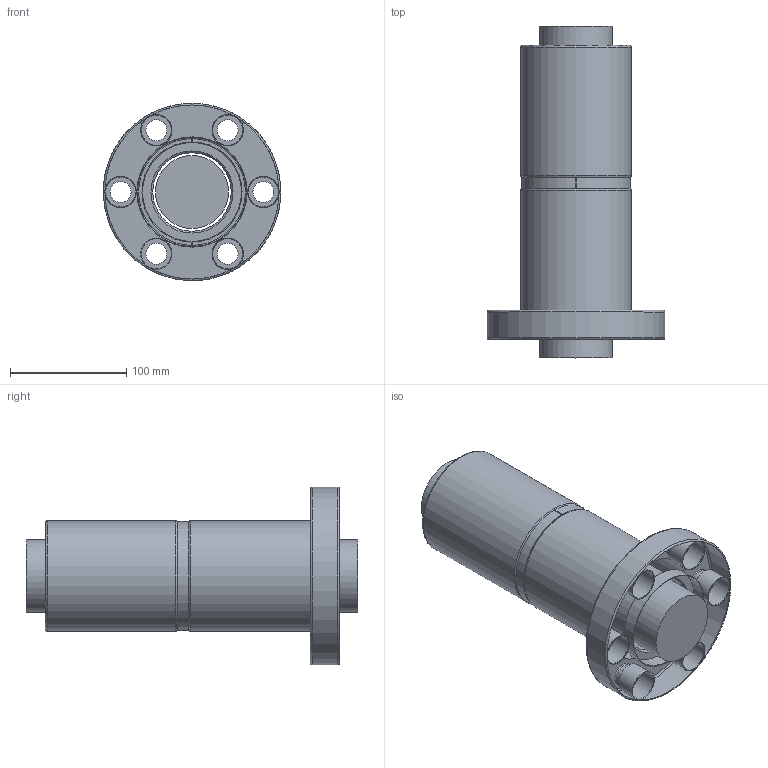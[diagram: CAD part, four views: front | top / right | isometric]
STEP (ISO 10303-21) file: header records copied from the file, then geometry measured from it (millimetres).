
FILE_DESCRIPTION(/* description */ (''),/* implementation_level */ '2;1');
FILE_NAME(/* name */ '6320.prt.step',/* time_stamp */ '2008-12-05T09:22:44+08:00',/* author */ (''),/* organization */ (''),/* preprocessor_version */ 'ST-DEVELOPER v11',/* originating_system */ 'SIEMENS UGS NX 6.0',/* authorisation */ '');
FILE_SCHEMA (('AUTOMOTIVE_DESIGN { 1 0 10303 214 1 1 1 1 }'));
Length unit declared in the file: millimetre
Products named in the file (1): 6320
Bounding box: 153 x 286 x 153 mm (x, y, z)
Volume: 1927579.7 mm3; surface area: 247788 mm2
Topology: 5 solids, 5 shells, 71 faces, 152 edges, 95 vertices
Faces by surface type: cylinder 25, plane 24, cone 15, torus 7
Full cylindrical faces by diameter (mm): 18 x6, 26 x6, 62.95 x1, 67.7 x2, 85.3 x3, 95 x2, 153 x1
Entity records: 1650 total; most frequent: DIRECTION 314, CARTESIAN_POINT 244, ORIENTED_EDGE 186, AXIS2_PLACEMENT_3D 149, EDGE_LOOP 134, FACE_BOUND 120, EDGE_CURVE 93, VERTEX_POINT 79
